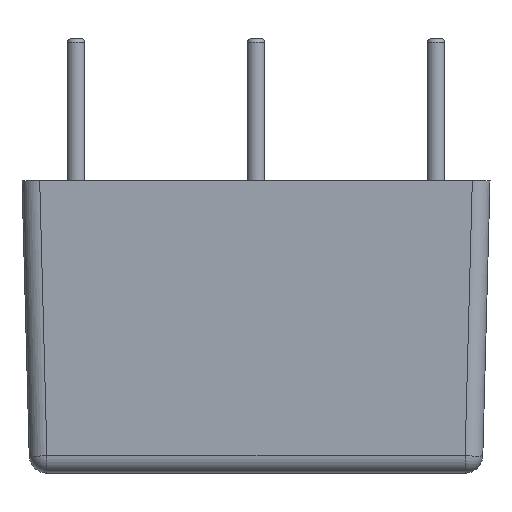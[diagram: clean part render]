
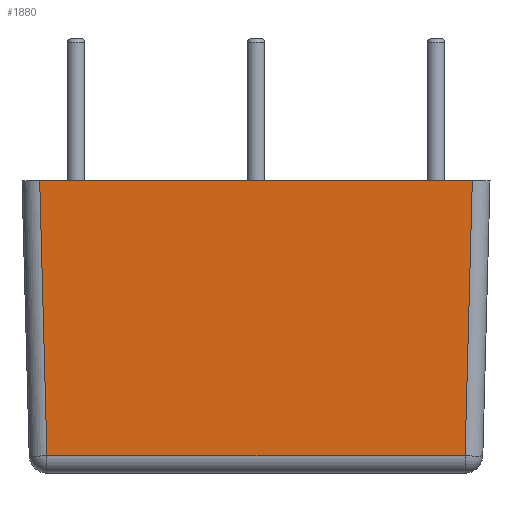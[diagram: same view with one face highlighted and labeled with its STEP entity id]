
A CAD part, left-side view. The second image highlights one B-rep face of the part: STEP entity #1880.
In plain terms, the highlighted planar face has unit normal (-1, 0, -0.026).
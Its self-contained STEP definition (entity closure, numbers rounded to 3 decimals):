
#169=LINE($,#2940,#357);
#212=LINE($,#3043,#400);
#213=LINE($,#3052,#401);
#215=LINE($,#3055,#403);
#357=VECTOR($,#2373,24.417);
#400=VECTOR($,#2468,15.547);
#401=VECTOR($,#2479,15.547);
#403=VECTOR($,#2483,23.603);
#514=PLANE($,#2054);
#651=FACE_OUTER_BOUND($,#789,.T.);
#789=EDGE_LOOP($,(#1647,#1648,#1649,#1650));
#968=VERTEX_POINT($,#2936);
#970=VERTEX_POINT($,#2939);
#1002=VERTEX_POINT($,#3035);
#1007=VERTEX_POINT($,#3048);
#1168=EDGE_CURVE($,#968,#970,#169,.T.);
#1221=EDGE_CURVE($,#1002,#968,#212,.T.);
#1225=EDGE_CURVE($,#970,#1007,#213,.T.);
#1227=EDGE_CURVE($,#1007,#1002,#215,.T.);
#1647=ORIENTED_EDGE($,*,*,#1221,.F.);
#1648=ORIENTED_EDGE($,*,*,#1227,.F.);
#1649=ORIENTED_EDGE($,*,*,#1225,.F.);
#1650=ORIENTED_EDGE($,*,*,#1168,.F.);
#1880=ADVANCED_FACE($,(#651),#514,.T.);
#2054=AXIS2_PLACEMENT_3D($,#3086,#2521,#2522);
#2373=DIRECTION($,(0.,-1.,0.));
#2468=DIRECTION($,(-0.026,0.026,0.999));
#2479=DIRECTION($,(0.026,0.026,-0.999));
#2483=DIRECTION($,(0.,1.,0.));
#2521=DIRECTION('center_axis',(-1.,0.,
-0.026));
#2522=DIRECTION('ref_axis',(0.,1.,0.));
#2936=CARTESIAN_POINT('',(0.,25.416,0.));
#2939=CARTESIAN_POINT('',(0.,1.,0.));
#2940=CARTESIAN_POINT($,(0.,26.416,0.));
#3035=CARTESIAN_POINT('',(0.407,25.01,-15.536));
#3043=CARTESIAN_POINT($,(0.017,25.399,-0.651));
#3048=CARTESIAN_POINT('',(0.407,1.406,-15.536));
#3052=CARTESIAN_POINT($,(0.008,1.008,-0.319));
#3055=CARTESIAN_POINT($,(0.407,19.812,-15.536));
#3086=CARTESIAN_POINT('Origin',(0.,26.416,0.));
